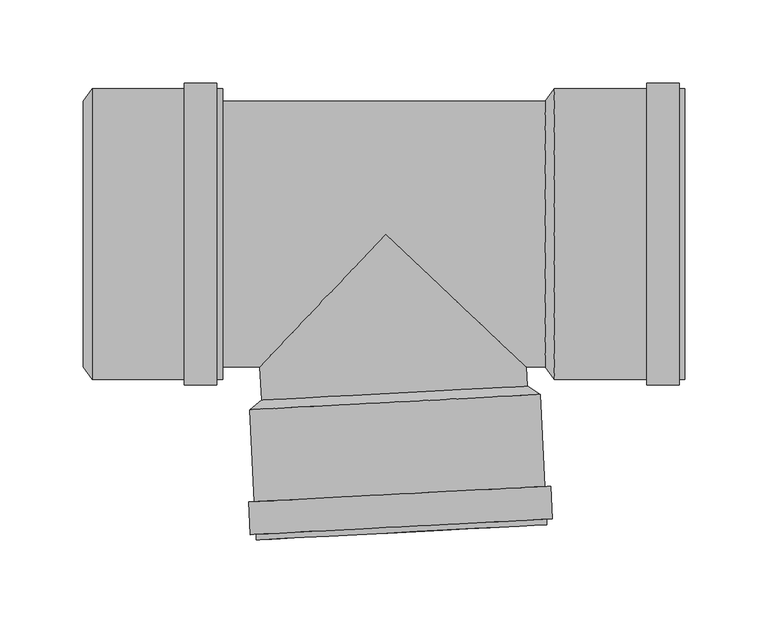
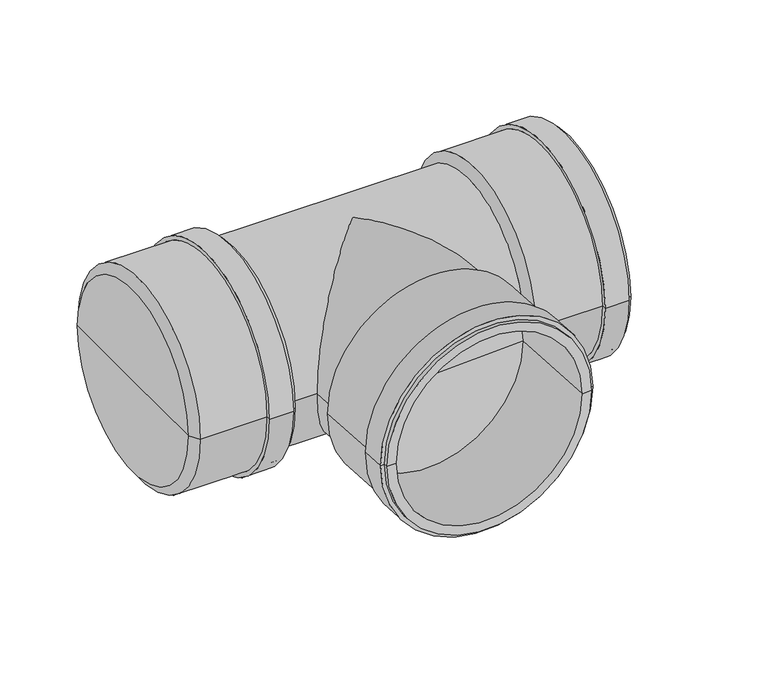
"""IFC4 building model written with IfcOpenShell, lengths in millimetres: pipe fitting geometry, pf_KGEA : pf_KGEA."""

from ifc_helpers import new_model, si_unit, frame, origin, place, context, project, spatial, polyline, circle_curve, ellipse_curve, source, transform, mapped, element, save
from ifc_brep_helpers import plane_surface, cylinder_surface, revolved_surface, advanced_brep


def pipe_fitting_ba354359(model_context):
    return source(origin(), model_context, "Body", "AdvancedBrep", [
        advanced_brep(
        [(-74.866111, -100.0553118, 0.0), (84.9146146, -91.6815588, 0.0), (92.7868132, -96.6764051, 0.0), (-82.1730813, -105.8456646, 0.0), (5.0242518, -95.8684353, 0.0), (-78.0594751, -184.337946, 0.0), (96.9004194, -175.1686865, 0.0), (89.3108349, -175.5664398, 0.0), (-70.4698907, -183.9401928, 0.0), (-78.2374174, -180.9426056, 0.0), (96.7224771, -171.7733461, 0.0), (-81.6327578, -181.1205479, 0.0), (100.1178175, -171.5954038, 0.0), (-82.6637761, -161.447546, 0.0), (99.0867992, -151.922402, 0.0), (-79.2684357, -161.2696038, 0.0), (95.6914588, -152.1003442, 0.0), (-74.5834968, -105.4479113, 0.0), (85.1972287, -97.0741583, 0.0), (5.306866, -101.2610348, 0.0)],
        [
            (0, 1, circle_curve(frame((5.0242518, -95.8684353, 0.0), z_axis=(0.05233595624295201, -0.9986295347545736, 0.0), x_axis=(0.9986295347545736, 0.05233595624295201, 0.0)), 80.0)),
            (1, 2),
            (2, 3, circle_curve(frame((5.306866, -101.2610348, 0.0), z_axis=(-0.05233595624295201, 0.9986295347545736, 0.0), x_axis=(0.9986295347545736, 0.05233595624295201, 0.0)), 87.6)),
            (3, 0),
            (1, 0, circle_curve(frame((5.0242518, -95.8684353, 0.0), z_axis=(0.05233595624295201, -0.9986295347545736, 0.0), x_axis=(0.9986295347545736, 0.05233595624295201, 0.0)), 80.0)),
            (3, 2, circle_curve(frame((5.306866, -101.2610348, 0.0), z_axis=(-0.05233595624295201, 0.9986295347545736, 0.0), x_axis=(0.9986295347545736, 0.05233595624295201, 0.0)), 87.6)),
            (4, 1),
            (0, 4),
            (5, 6, circle_curve(frame((9.4204721, -179.7533163, 0.0), z_axis=(0.05233595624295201, -0.9986295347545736, 0.0), x_axis=(0.9986295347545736, 0.05233595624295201, 0.0)), 87.6)),
            (6, 7),
            (7, 8, circle_curve(frame((9.4204721, -179.7533163, 0.0), z_axis=(-0.05233595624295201, 0.9986295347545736, 0.0), x_axis=(0.9986295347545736, 0.05233595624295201, 0.0)), 80.0)),
            (8, 5),
            (6, 5, circle_curve(frame((9.4204721, -179.7533163, 0.0), z_axis=(0.05233595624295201, -0.9986295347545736, 0.0), x_axis=(0.9986295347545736, 0.05233595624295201, 0.0)), 87.6)),
            (8, 7, circle_curve(frame((9.4204721, -179.7533163, 0.0), z_axis=(-0.05233595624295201, 0.9986295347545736, 0.0), x_axis=(0.9986295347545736, 0.05233595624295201, 0.0)), 80.0)),
            (9, 10, circle_curve(frame((9.2425299, -176.3579758, 0.0), z_axis=(0.05233595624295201, -0.9986295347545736, 0.0), x_axis=(0.9986295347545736, 0.05233595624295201, 0.0)), 87.6)),
            (10, 6),
            (5, 9),
            (10, 9, circle_curve(frame((9.2425299, -176.3579758, 0.0), z_axis=(0.05233595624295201, -0.9986295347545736, 0.0), x_axis=(0.9986295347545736, 0.05233595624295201, 0.0)), 87.6)),
            (11, 12, circle_curve(frame((9.2425299, -176.3579758, 0.0), z_axis=(0.05233595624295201, -0.9986295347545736, 0.0), x_axis=(0.9986295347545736, 0.05233595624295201, 0.0)), 91.0)),
            (12, 10),
            (9, 11),
            (12, 11, circle_curve(frame((9.2425299, -176.3579758, 0.0), z_axis=(0.05233595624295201, -0.9986295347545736, 0.0), x_axis=(0.9986295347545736, 0.05233595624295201, 0.0)), 91.0)),
            (13, 14, circle_curve(frame((8.2115115, -156.684974, 0.0), z_axis=(0.05233595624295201, -0.9986295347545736, 0.0), x_axis=(0.9986295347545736, 0.05233595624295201, 0.0)), 91.0)),
            (14, 12),
            (11, 13),
            (14, 13, circle_curve(frame((8.2115115, -156.684974, 0.0), z_axis=(0.05233595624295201, -0.9986295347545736, 0.0), x_axis=(0.9986295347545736, 0.05233595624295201, 0.0)), 91.0)),
            (15, 16, circle_curve(frame((8.2115115, -156.684974, 0.0), z_axis=(0.05233595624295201, -0.9986295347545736, 0.0), x_axis=(0.9986295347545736, 0.05233595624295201, 0.0)), 87.6)),
            (16, 14),
            (13, 15),
            (16, 15, circle_curve(frame((8.2115115, -156.684974, 0.0), z_axis=(0.05233595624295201, -0.9986295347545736, 0.0), x_axis=(0.9986295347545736, 0.05233595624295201, 0.0)), 87.6)),
            (2, 16),
            (15, 3),
            (17, 18, circle_curve(frame((5.306866, -101.2610348, 0.0), z_axis=(0.05233595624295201, -0.9986295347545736, 0.0), x_axis=(0.9986295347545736, 0.05233595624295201, 0.0)), 80.0)),
            (18, 19),
            (19, 17),
            (18, 17, circle_curve(frame((5.306866, -101.2610348, 0.0), z_axis=(0.05233595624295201, -0.9986295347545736, 0.0), x_axis=(0.9986295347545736, 0.05233595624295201, 0.0)), 80.0)),
            (7, 18),
            (17, 8),
        ],
        [
            revolved_surface(polyline([(92.7868132, -96.6764051, 0.0), (84.9146146, -91.6815588, 0.0)]), (5.0242518, -95.8684353, 0.0), (-0.05233595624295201, 0.9986295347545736, 0.0)),
            plane_surface(frame((5.0242518, -95.8684353, 0.0), z_axis=(-0.05233595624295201, 0.9986295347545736, 0.0), x_axis=(0.9986295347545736, 0.05233595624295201, 0.0))),
            plane_surface(frame((9.4204721, -179.7533163, 0.0), z_axis=(0.05233595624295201, -0.9986295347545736, 0.0), x_axis=(0.9986295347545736, 0.05233595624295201, 0.0))),
            cylinder_surface(frame((5.0242518, -95.8684353, 0.0), z_axis=(-0.05233595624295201, 0.9986295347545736, 0.0), x_axis=(0.9986295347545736, 0.05233595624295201, 0.0)), 87.6),
            plane_surface(frame((9.2425299, -176.3579758, 0.0), z_axis=(0.05233595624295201, -0.9986295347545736, 0.0), x_axis=(0.9986295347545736, 0.05233595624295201, 0.0))),
            cylinder_surface(frame((5.0242518, -95.8684353, 0.0), z_axis=(-0.05233595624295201, 0.9986295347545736, 0.0), x_axis=(0.9986295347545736, 0.05233595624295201, 0.0)), 91.0),
            plane_surface(frame((8.2115115, -156.684974, 0.0), z_axis=(-0.05233595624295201, 0.9986295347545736, 0.0), x_axis=(0.9986295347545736, 0.05233595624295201, 0.0))),
            plane_surface(frame((5.306866, -101.2610348, 0.0), z_axis=(0.05233595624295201, -0.9986295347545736, 0.0), x_axis=(0.9986295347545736, 0.05233595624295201, 0.0))),
            revolved_surface(polyline([(85.1972287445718, -97.07415829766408, 0.0), (89.31083490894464, -175.56643979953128, 0.0)]), (5.0242518, -95.8684353, 0.0), (-0.05233595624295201, 0.9986295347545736, 0.0)),
        ],
        [
            (0, [[1, 2, 3, 4]]),
            (0, [[5, -4, 6, -2]]),
            (1, [[7, -1, 8]]),
            (1, [[-8, -5, -7]]),
            (2, [[9, 10, 11, 12]]),
            (2, [[13, -12, 14, -10]]),
            (3, [[15, 16, -9, 17]]),
            (3, [[18, -17, -13, -16]]),
            (4, [[19, 20, -15, 21]]),
            (4, [[22, -21, -18, -20]]),
            (5, [[23, 24, -19, 25]]),
            (5, [[26, -25, -22, -24]]),
            (6, [[27, 28, -23, 29]]),
            (6, [[30, -29, -26, -28]]),
            (3, [[-3, 31, -27, 32]]),
            (3, [[-6, -32, -30, -31]]),
            (7, [[33, 34, 35]]),
            (7, [[36, -35, -34]]),
            (8, [[-11, 37, -33, 38]]),
            (8, [[-14, -38, -36, -37]]),
        ],
    ),
        advanced_brep(
        [(96.0, -80.0, 0.0), (96.0, 80.0, 0.0), (101.4, 87.6, 0.0), (101.4, -87.6, 0.0), (96.0, 0.0, 0.0), (180.0, -87.6, 0.0), (180.0, 87.6, 0.0), (180.0, 80.0, 0.0), (180.0, -80.0, 0.0), (176.6, -87.6, 0.0), (176.6, 87.6, 0.0), (176.6, -91.0, 0.0), (176.6, 91.0, 0.0), (156.9, -91.0, 0.0), (156.9, 91.0, 0.0), (156.9, -87.6, 0.0), (156.9, 87.6, 0.0), (101.4, -80.0, 0.0), (101.4, 80.0, 0.0), (101.4, 0.0, 0.0)],
        [
            (0, 1, circle_curve(frame((96.0, 0.0, 0.0), z_axis=(1.0, 0.0, 0.0), x_axis=(0.0, 1.0, 0.0)), 80.0)),
            (1, 2),
            (2, 3, circle_curve(frame((101.4, 0.0, 0.0), z_axis=(-1.0, 0.0, 0.0), x_axis=(0.0, 1.0, 0.0)), 87.6)),
            (3, 0),
            (1, 0, circle_curve(frame((96.0, 0.0, 0.0), z_axis=(1.0, 0.0, 0.0), x_axis=(0.0, 1.0, 0.0)), 80.0)),
            (3, 2, circle_curve(frame((101.4, 0.0, 0.0), z_axis=(-1.0, 0.0, 0.0), x_axis=(0.0, 1.0, 0.0)), 87.6)),
            (4, 1),
            (0, 4),
            (5, 6, circle_curve(frame((180.0, 0.0, 0.0), z_axis=(1.0, 0.0, 0.0), x_axis=(0.0, 1.0, 0.0)), 87.6)),
            (6, 7),
            (7, 8, circle_curve(frame((180.0, 0.0, 0.0), z_axis=(-1.0, 0.0, 0.0), x_axis=(0.0, 1.0, 0.0)), 80.0)),
            (8, 5),
            (6, 5, circle_curve(frame((180.0, 0.0, 0.0), z_axis=(1.0, 0.0, 0.0), x_axis=(0.0, 1.0, 0.0)), 87.6)),
            (8, 7, circle_curve(frame((180.0, 0.0, 0.0), z_axis=(-1.0, 0.0, 0.0), x_axis=(0.0, 1.0, 0.0)), 80.0)),
            (9, 10, circle_curve(frame((176.6, 0.0, 0.0), z_axis=(1.0, 0.0, 0.0), x_axis=(0.0, 1.0, 0.0)), 87.6)),
            (10, 6),
            (5, 9),
            (10, 9, circle_curve(frame((176.6, 0.0, 0.0), z_axis=(1.0, 0.0, 0.0), x_axis=(0.0, 1.0, 0.0)), 87.6)),
            (11, 12, circle_curve(frame((176.6, 0.0, 0.0), z_axis=(1.0, 0.0, 0.0), x_axis=(0.0, 1.0, 0.0)), 91.0)),
            (12, 10),
            (9, 11),
            (12, 11, circle_curve(frame((176.6, 0.0, 0.0), z_axis=(1.0, 0.0, 0.0), x_axis=(0.0, 1.0, 0.0)), 91.0)),
            (13, 14, circle_curve(frame((156.9, 0.0, 0.0), z_axis=(1.0, 0.0, 0.0), x_axis=(0.0, 1.0, 0.0)), 91.0)),
            (14, 12),
            (11, 13),
            (14, 13, circle_curve(frame((156.9, 0.0, 0.0), z_axis=(1.0, 0.0, 0.0), x_axis=(0.0, 1.0, 0.0)), 91.0)),
            (15, 16, circle_curve(frame((156.9, 0.0, 0.0), z_axis=(1.0, 0.0, 0.0), x_axis=(0.0, 1.0, 0.0)), 87.6)),
            (16, 14),
            (13, 15),
            (16, 15, circle_curve(frame((156.9, 0.0, 0.0), z_axis=(1.0, 0.0, 0.0), x_axis=(0.0, 1.0, 0.0)), 87.6)),
            (2, 16),
            (15, 3),
            (17, 18, circle_curve(frame((101.4, 0.0, 0.0), z_axis=(1.0, 0.0, 0.0), x_axis=(0.0, 1.0, 0.0)), 80.0)),
            (18, 19),
            (19, 17),
            (18, 17, circle_curve(frame((101.4, 0.0, 0.0), z_axis=(1.0, 0.0, 0.0), x_axis=(0.0, 1.0, 0.0)), 80.0)),
            (7, 18),
            (17, 8),
        ],
        [
            revolved_surface(polyline([(101.4, 87.6, 0.0), (96.0, 80.0, 0.0)]), (96.0, 0.0, 0.0), (-1.0, 0.0, 0.0)),
            plane_surface(frame((96.0, 0.0, 0.0), z_axis=(-1.0, 0.0, 0.0), x_axis=(0.0, 1.0, 0.0))),
            plane_surface(frame((180.0, 0.0, 0.0), z_axis=(1.0, 0.0, 0.0), x_axis=(0.0, 1.0, 0.0))),
            cylinder_surface(frame((96.0, 0.0, 0.0), z_axis=(-1.0, 0.0, 0.0), x_axis=(0.0, 1.0, 0.0)), 87.6),
            plane_surface(frame((176.6, 0.0, 0.0), z_axis=(1.0, 0.0, 0.0), x_axis=(0.0, 1.0, 0.0))),
            cylinder_surface(frame((96.0, 0.0, 0.0), z_axis=(-1.0, 0.0, 0.0), x_axis=(0.0, 1.0, 0.0)), 91.0),
            plane_surface(frame((156.9, 0.0, 0.0), z_axis=(-1.0, 0.0, 0.0), x_axis=(0.0, 1.0, 0.0))),
            plane_surface(frame((101.4, 0.0, 0.0), z_axis=(1.0, 0.0, 0.0), x_axis=(0.0, 1.0, 0.0))),
            revolved_surface(polyline([(101.4, 80.0, 0.0), (180.0, 80.0, 0.0)]), (96.0, 0.0, 0.0), (-1.0, 0.0, 0.0)),
        ],
        [
            (0, [[1, 2, 3, 4]]),
            (0, [[5, -4, 6, -2]]),
            (1, [[7, -1, 8]]),
            (1, [[-8, -5, -7]]),
            (2, [[9, 10, 11, 12]]),
            (2, [[13, -12, 14, -10]]),
            (3, [[15, 16, -9, 17]]),
            (3, [[18, -17, -13, -16]]),
            (4, [[19, 20, -15, 21]]),
            (4, [[22, -21, -18, -20]]),
            (5, [[23, 24, -19, 25]]),
            (5, [[26, -25, -22, -24]]),
            (6, [[27, 28, -23, 29]]),
            (6, [[30, -29, -26, -28]]),
            (3, [[-3, 31, -27, 32]]),
            (3, [[-6, -32, -30, -31]]),
            (7, [[33, 34, 35]]),
            (7, [[36, -35, -34]]),
            (8, [[-11, 37, -33, 38]]),
            (8, [[-14, -38, -36, -37]]),
        ],
    ),
        advanced_brep(
        [(-182.4, -80.0, 0.0), (-182.4, 80.0, 0.0), (-177.0, 87.6, 0.0), (-177.0, -87.6, 0.0), (-182.4, 0.0, 0.0), (-98.4, -87.6, 0.0), (-98.4, 87.6, 0.0), (-98.4, 80.0, 0.0), (-98.4, -80.0, 0.0), (-101.8, -87.6, 0.0), (-101.8, 87.6, 0.0), (-101.8, -91.0, 0.0), (-101.8, 91.0, 0.0), (-121.5, -91.0, 0.0), (-121.5, 91.0, 0.0), (-121.5, -87.6, 0.0), (-121.5, 87.6, 0.0), (-177.0, -80.0, 0.0), (-177.0, 80.0, 0.0), (-177.0, 0.0, 0.0)],
        [
            (0, 1, circle_curve(frame((-182.4, 0.0, 0.0), z_axis=(1.0, 0.0, 0.0), x_axis=(0.0, 1.0, 0.0)), 80.0)),
            (1, 2),
            (2, 3, circle_curve(frame((-177.0, 0.0, 0.0), z_axis=(-1.0, 0.0, 0.0), x_axis=(0.0, 1.0, 0.0)), 87.6)),
            (3, 0),
            (1, 0, circle_curve(frame((-182.4, 0.0, 0.0), z_axis=(1.0, 0.0, 0.0), x_axis=(0.0, 1.0, 0.0)), 80.0)),
            (3, 2, circle_curve(frame((-177.0, 0.0, 0.0), z_axis=(-1.0, 0.0, 0.0), x_axis=(0.0, 1.0, 0.0)), 87.6)),
            (4, 1),
            (0, 4),
            (5, 6, circle_curve(frame((-98.4, 0.0, 0.0), z_axis=(1.0, 0.0, 0.0), x_axis=(0.0, 1.0, 0.0)), 87.6)),
            (6, 7),
            (7, 8, circle_curve(frame((-98.4, 0.0, 0.0), z_axis=(-1.0, 0.0, 0.0), x_axis=(0.0, 1.0, 0.0)), 80.0)),
            (8, 5),
            (6, 5, circle_curve(frame((-98.4, 0.0, 0.0), z_axis=(1.0, 0.0, 0.0), x_axis=(0.0, 1.0, 0.0)), 87.6)),
            (8, 7, circle_curve(frame((-98.4, 0.0, 0.0), z_axis=(-1.0, 0.0, 0.0), x_axis=(0.0, 1.0, 0.0)), 80.0)),
            (9, 10, circle_curve(frame((-101.8, 0.0, 0.0), z_axis=(1.0, 0.0, 0.0), x_axis=(0.0, 1.0, 0.0)), 87.6)),
            (10, 6),
            (5, 9),
            (10, 9, circle_curve(frame((-101.8, 0.0, 0.0), z_axis=(1.0, 0.0, 0.0), x_axis=(0.0, 1.0, 0.0)), 87.6)),
            (11, 12, circle_curve(frame((-101.8, 0.0, 0.0), z_axis=(1.0, 0.0, 0.0), x_axis=(0.0, 1.0, 0.0)), 91.0)),
            (12, 10),
            (9, 11),
            (12, 11, circle_curve(frame((-101.8, 0.0, 0.0), z_axis=(1.0, 0.0, 0.0), x_axis=(0.0, 1.0, 0.0)), 91.0)),
            (13, 14, circle_curve(frame((-121.5, 0.0, 0.0), z_axis=(1.0, 0.0, 0.0), x_axis=(0.0, 1.0, 0.0)), 91.0)),
            (14, 12),
            (11, 13),
            (14, 13, circle_curve(frame((-121.5, 0.0, 0.0), z_axis=(1.0, 0.0, 0.0), x_axis=(0.0, 1.0, 0.0)), 91.0)),
            (15, 16, circle_curve(frame((-121.5, 0.0, 0.0), z_axis=(1.0, 0.0, 0.0), x_axis=(0.0, 1.0, 0.0)), 87.6)),
            (16, 14),
            (13, 15),
            (16, 15, circle_curve(frame((-121.5, 0.0, 0.0), z_axis=(1.0, 0.0, 0.0), x_axis=(0.0, 1.0, 0.0)), 87.6)),
            (2, 16),
            (15, 3),
            (17, 18, circle_curve(frame((-177.0, 0.0, 0.0), z_axis=(1.0, 0.0, 0.0), x_axis=(0.0, 1.0, 0.0)), 80.0)),
            (18, 19),
            (19, 17),
            (18, 17, circle_curve(frame((-177.0, 0.0, 0.0), z_axis=(1.0, 0.0, 0.0), x_axis=(0.0, 1.0, 0.0)), 80.0)),
            (7, 18),
            (17, 8),
        ],
        [
            revolved_surface(polyline([(-177.0, 87.6, 0.0), (-182.4, 80.0, 0.0)]), (-182.4, 0.0, 0.0), (-1.0, 0.0, 0.0)),
            plane_surface(frame((-182.4, 0.0, 0.0), z_axis=(-1.0, 0.0, 0.0), x_axis=(0.0, 1.0, 0.0))),
            plane_surface(frame((-98.4, 0.0, 0.0), z_axis=(1.0, 0.0, 0.0), x_axis=(0.0, 1.0, 0.0))),
            cylinder_surface(frame((-182.4, 0.0, 0.0), z_axis=(-1.0, 0.0, 0.0), x_axis=(0.0, 1.0, 0.0)), 87.6),
            plane_surface(frame((-101.8, 0.0, 0.0), z_axis=(1.0, 0.0, 0.0), x_axis=(0.0, 1.0, 0.0))),
            cylinder_surface(frame((-182.4, 0.0, 0.0), z_axis=(-1.0, 0.0, 0.0), x_axis=(0.0, 1.0, 0.0)), 91.0),
            plane_surface(frame((-121.5, 0.0, 0.0), z_axis=(-1.0, 0.0, 0.0), x_axis=(0.0, 1.0, 0.0))),
            plane_surface(frame((-177.0, 0.0, 0.0), z_axis=(1.0, 0.0, 0.0), x_axis=(0.0, 1.0, 0.0))),
            revolved_surface(polyline([(-177.0, 80.0, 0.0), (-98.4, 80.0, 0.0)]), (-182.4, 0.0, 0.0), (-1.0, 0.0, 0.0)),
        ],
        [
            (0, [[1, 2, 3, 4]]),
            (0, [[5, -4, 6, -2]]),
            (1, [[7, -1, 8]]),
            (1, [[-8, -5, -7]]),
            (2, [[9, 10, 11, 12]]),
            (2, [[13, -12, 14, -10]]),
            (3, [[15, 16, -9, 17]]),
            (3, [[18, -17, -13, -16]]),
            (4, [[19, 20, -15, 21]]),
            (4, [[22, -21, -18, -20]]),
            (5, [[23, 24, -19, 25]]),
            (5, [[26, -25, -22, -24]]),
            (6, [[27, 28, -23, 29]]),
            (6, [[30, -29, -26, -28]]),
            (3, [[-3, 31, -27, 32]]),
            (3, [[-6, -32, -30, -31]]),
            (7, [[33, 34, 35]]),
            (7, [[36, -35, -34]]),
            (8, [[-11, 37, -33, 38]]),
            (8, [[-14, -38, -36, -37]]),
        ],
    ),
        advanced_brep(
        [(-177.0, -80.0, 0.0), (-177.0, 80.0, 0.0), (96.0, -80.0, 0.0), (96.0, 80.0, 0.0), (-75.9171653, -80.0, 0.0), (0.0, 0.0, 80.0), (84.30241, -80.0, 0.0), (0.0, 0.0, -80.0), (-74.866111, -100.0553118, 0.0), (84.9146146, -91.6815588, 0.0)],
        [
            (0, 1, circle_curve(frame((-177.0, 0.0, 0.0), z_axis=(-1.0, 0.0, 0.0), x_axis=(0.0, 1.0, 0.0)), 80.0)),
            (1, 0, circle_curve(frame((-177.0, 0.0, 0.0), z_axis=(-1.0, 0.0, 0.0), x_axis=(0.0, 1.0, 0.0)), 80.0)),
            (2, 3, circle_curve(frame((96.0, 0.0, 0.0), z_axis=(1.0, 0.0, 0.0), x_axis=(0.0, 1.0, 0.0)), 80.0)),
            (3, 2, circle_curve(frame((96.0, 0.0, 0.0), z_axis=(1.0, 0.0, 0.0), x_axis=(0.0, 1.0, 0.0)), 80.0)),
            (0, 4),
            (4, 5, ellipse_curve(frame((0.0, 0.0, 0.0), z_axis=(-0.7253743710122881, 0.6883545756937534, 0.0), x_axis=(-0.6883545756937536, -0.725374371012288, 0.0)), 110.2878778, 80.0)),
            (5, 6, ellipse_curve(frame((0.0, 0.0, 0.0), z_axis=(0.6883545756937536, 0.7253743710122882, 0.0), x_axis=(-0.7253743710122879, 0.6883545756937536, 0.0)), 116.2191737, 80.0)),
            (6, 2),
            (3, 1),
            (6, 7, ellipse_curve(frame((0.0, 0.0, 0.0), z_axis=(0.6883545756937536, 0.7253743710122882, 0.0), x_axis=(-0.7253743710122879, 0.6883545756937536, 0.0)), 116.2191737, 80.0)),
            (7, 4, ellipse_curve(frame((0.0, 0.0, 0.0), z_axis=(-0.7253743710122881, 0.6883545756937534, 0.0), x_axis=(-0.6883545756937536, -0.725374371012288, 0.0)), 110.2878778, 80.0)),
            (8, 9, circle_curve(frame((5.0242518, -95.8684353, 0.0), z_axis=(0.05233595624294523, -0.9986295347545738, 0.0), x_axis=(0.9986295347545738, 0.05233595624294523, 0.0)), 80.0)),
            (9, 8, circle_curve(frame((5.0242518, -95.8684353, 0.0), z_axis=(0.05233595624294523, -0.9986295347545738, 0.0), x_axis=(0.9986295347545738, 0.05233595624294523, 0.0)), 80.0)),
            (9, 6),
            (4, 8),
        ],
        [
            plane_surface(frame((-177.0, 0.0, 0.0), z_axis=(-1.0, 0.0, 0.0), x_axis=(0.0, 0.0, 1.0))),
            plane_surface(frame((96.0, 0.0, 0.0), z_axis=(1.0, 0.0, 0.0), x_axis=(0.0, 0.0, 1.0))),
            cylinder_surface(frame((-177.0, 0.0, 0.0), z_axis=(-1.0, 0.0, 0.0), x_axis=(0.0, 1.0, 0.0)), 80.0),
            plane_surface(frame((5.0242518, -95.8684353, 0.0), z_axis=(0.05233595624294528, -0.9986295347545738, 0.0), x_axis=(0.0, 0.0, 1.0))),
            cylinder_surface(frame((0.0, 0.0, 0.0), z_axis=(-0.05233595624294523, 0.9986295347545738, 0.0), x_axis=(0.9986295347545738, 0.05233595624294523, 0.0)), 80.0),
        ],
        [
            (0, [[1, 2]]),
            (1, [[3, 4]]),
            (2, [[-1, 5, 6, 7, 8, -4, 9]]),
            (2, [[-2, -9, -3, -8, 10, 11, -5]]),
            (3, [[12, 13]]),
            (4, [[-13, 14, -7, -6, 15]]),
            (4, [[-12, -15, -11, -10, -14]]),
        ],
    ),
    ])


if __name__ == "__main__":
    model = new_model("IFC4")
    model_context = context("Model", 3, world=origin())
    ifc_project = project(units=[si_unit("LENGTHUNIT", "METRE", prefix="MILLI")], contexts=[model_context])
    site = spatial("IfcSite", under=ifc_project)
    building = spatial("IfcBuilding", under=site)
    placement = place(None, origin())
    pipe_fitting_shape = pipe_fitting_ba354359(model_context)
    element("IfcPipeFitting", 1, ObjectType="pf_KGEA : pf_KGEA", at=placement, inside=building, context=model_context, shape_type="MappedRepresentation", body=[
        mapped(pipe_fitting_shape, transform((0.0, 0.0, 0.0), x_axis=(1.0, 0.0, 0.0), y_axis=(0.0, 1.0, 0.0), z_axis=(0.0, 0.0, 1.0))),
    ])
    save(model, "model.ifc")
